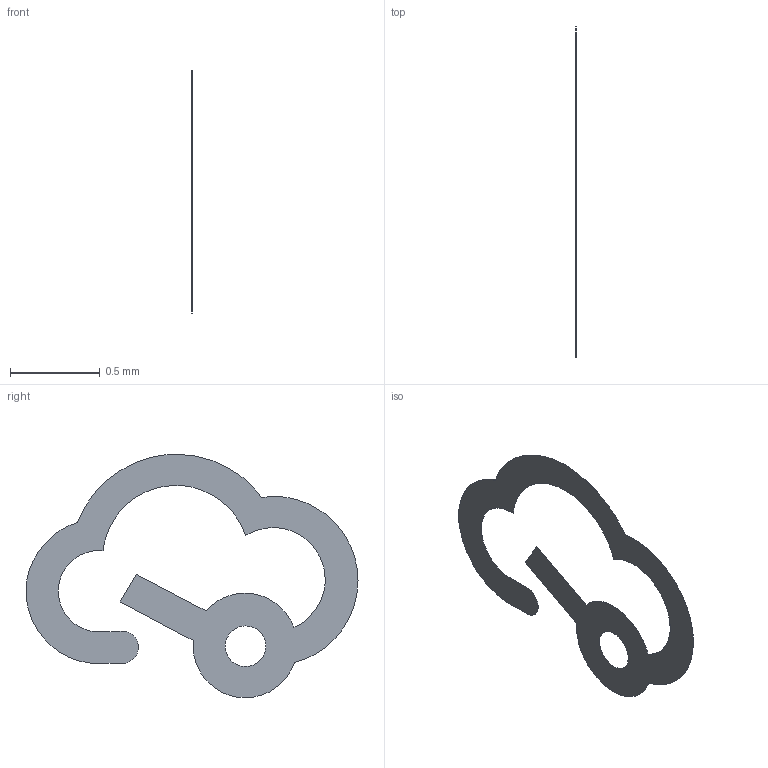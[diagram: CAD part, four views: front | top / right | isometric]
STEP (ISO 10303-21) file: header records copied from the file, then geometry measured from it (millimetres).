
FILE_DESCRIPTION(/* description */ ('STEP AP242 Edition 2','CAx-IF Rec.Pracs.---Representation and Presentation of Product Manufacturing Information (PMI)---4.0---2014-10-13','CAx-IF Rec.Pracs.---3D Tessellated Geometry---0.4---2014-09-14','2;1','CAx-IF Rec.Pracs.---User Defined Attributes---1.5---2016-08-15'),/* implementation_level */ '2;1');
FILE_NAME(/* name */ 'Assembly 1 - CONN-TH_HFBR-1521Z~CONN-TH_HFBR-1521Z~nxQB (5)',/* time_stamp */ '2026-04-02T09:55:12Z',/* author */ (''),/* organization */ (''),/* preprocessor_version */ 'ST-DEVELOPER v20',/* originating_system */ 'ONSHAPE BY PTC INC, 1.212',/* authorisation */ ' ');
FILE_SCHEMA (('AP242_MANAGED_MODEL_BASED_3D_ENGINEERING_MIM_LF { 1 0 10303 442 3 1 4 }'));
Length unit declared in the file: metre
Products named in the file (1): CONN-TH_HFBR-1521Z~CONN-TH_HFBR-1521Z~nxQB
Bounding box: 0 x 1.85 x 1.35 mm (x, y, z)
Volume: 0 mm3; surface area: 1.9 mm2
Topology: 1 solids, 1 shells, 37 faces, 105 edges, 70 vertices
Faces by surface type: bspline 28, plane 9
Entity records: 1653 total; most frequent: CARTESIAN_POINT 597, ORIENTED_EDGE 210, EDGE_CURVE 105, VERTEX_POINT 70, DIRECTION 69, B_SPLINE_CURVE_WITH_KNOTS 56, LINE 49, VECTOR 49
